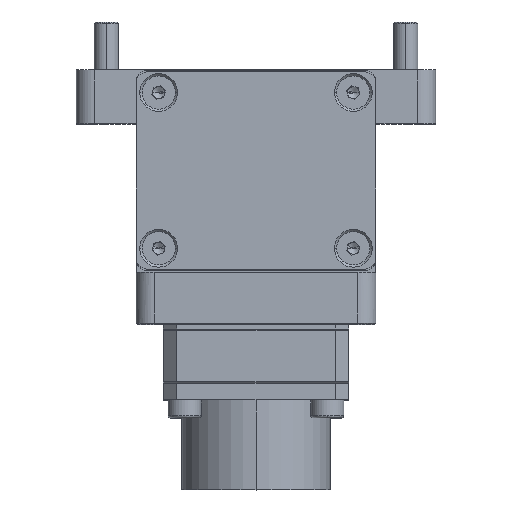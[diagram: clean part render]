
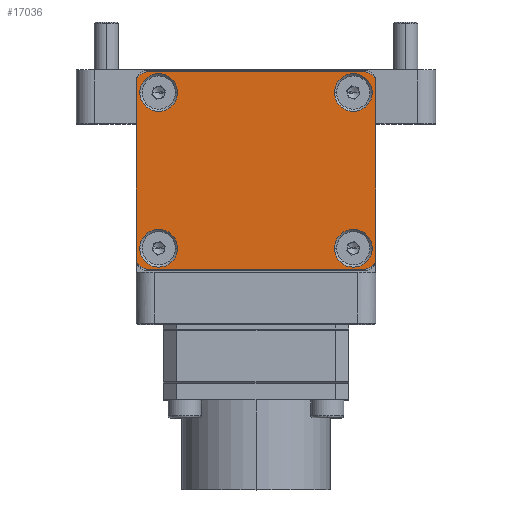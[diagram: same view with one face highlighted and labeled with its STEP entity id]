
A CAD part, top view. The second image highlights one B-rep face of the part: STEP entity #17036.
In plain terms, the highlighted planar face has unit normal (0, 0, 1).
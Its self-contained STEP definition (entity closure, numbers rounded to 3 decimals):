
#133 = CARTESIAN_POINT ( 'NONE',  ( -13.1, -8.55, 36.8 ) ) ;
#352 = EDGE_CURVE ( 'NONE', #18448, #8161, #4329, .T. ) ;
#366 = AXIS2_PLACEMENT_3D ( 'NONE', #6627, #8525, #2038 ) ;
#446 = CARTESIAN_POINT ( 'NONE',  ( -19.4, 17.45, 36.8 ) ) ;
#562 = ORIENTED_EDGE ( 'NONE', *, *, #3652, .F. ) ;
#606 = CARTESIAN_POINT ( 'NONE',  ( 20., -10.05, 36.8 ) ) ;
#627 = CARTESIAN_POINT ( 'NONE',  ( 16.25, -8.55, 36.8 ) ) ;
#720 = EDGE_CURVE ( 'NONE', #4087, #12209, #14804, .T. ) ;
#850 = CARTESIAN_POINT ( 'NONE',  ( 20., 18.95, 36.8 ) ) ;
#1012 = AXIS2_PLACEMENT_3D ( 'NONE', #2974, #4569, #10662 ) ;
#1056 = EDGE_CURVE ( 'NONE', #4096, #13582, #7083, .T. ) ;
#1203 = ORIENTED_EDGE ( 'NONE', *, *, #10445, .F. ) ;
#1251 = CARTESIAN_POINT ( 'NONE',  ( 0., 20.95, 36.8 ) ) ;
#1433 = CARTESIAN_POINT ( 'NONE',  ( 16.25, 17.45, 36.8 ) ) ;
#1600 = CARTESIAN_POINT ( 'NONE',  ( -20., -12.05, 36.8 ) ) ;
#2038 = DIRECTION ( 'NONE',  ( 1., 0., 0. ) ) ;
#2167 = VERTEX_POINT ( 'NONE', #12485 ) ;
#2706 = DIRECTION ( 'NONE',  ( 0., 0., -1. ) ) ;
#2880 = CARTESIAN_POINT ( 'NONE',  ( 0., -12.05, 36.8 ) ) ;
#2948 = DIRECTION ( 'NONE',  ( 0., 0., 1. ) ) ;
#2974 = CARTESIAN_POINT ( 'NONE',  ( 18., 18.95, 36.8 ) ) ;
#3039 = DIRECTION ( 'NONE',  ( 1., 0., 0. ) ) ;
#3059 = CIRCLE ( 'NONE', #12002, 3.15 ) ;
#3254 = AXIS2_PLACEMENT_3D ( 'NONE', #17262, #14158, #6563 ) ;
#3311 = DIRECTION ( 'NONE',  ( 0., 0., -1. ) ) ;
#3317 = ORIENTED_EDGE ( 'NONE', *, *, #9613, .F. ) ;
#3372 = DIRECTION ( 'NONE',  ( 1., 0., 0. ) ) ;
#3433 = VERTEX_POINT ( 'NONE', #14840 ) ;
#3633 = EDGE_LOOP ( 'NONE', ( #8356, #1203 ) ) ;
#3652 = EDGE_CURVE ( 'NONE', #13544, #2167, #14180, .T. ) ;
#3824 = VECTOR ( 'NONE', #17708, 1000. ) ;
#3860 = ORIENTED_EDGE ( 'NONE', *, *, #720, .T. ) ;
#3934 = EDGE_CURVE ( 'NONE', #7366, #18094, #15893, .T. ) ;
#4087 = VERTEX_POINT ( 'NONE', #606 ) ;
#4096 = VERTEX_POINT ( 'NONE', #8298 ) ;
#4276 = DIRECTION ( 'NONE',  ( 0., 0., 1. ) ) ;
#4287 = EDGE_CURVE ( 'NONE', #16637, #15962, #9175, .T. ) ;
#4329 = CIRCLE ( 'NONE', #12637, 3.15 ) ;
#4355 = FACE_BOUND ( 'NONE', #11053, .T. ) ;
#4569 = DIRECTION ( 'NONE',  ( 0., 0., -1. ) ) ;
#4674 = EDGE_CURVE ( 'NONE', #4087, #16637, #13714, .T. ) ;
#4678 = DIRECTION ( 'NONE',  ( 0., 0., 1. ) ) ;
#4751 = CIRCLE ( 'NONE', #13726, 3.15 ) ;
#5244 = CARTESIAN_POINT ( 'NONE',  ( -18., -12.05, 36.8 ) ) ;
#5375 = ORIENTED_EDGE ( 'NONE', *, *, #6306, .F. ) ;
#5902 = DIRECTION ( 'NONE',  ( -1., 0., 0. ) ) ;
#6306 = EDGE_CURVE ( 'NONE', #3433, #12209, #13136, .T. ) ;
#6357 = EDGE_CURVE ( 'NONE', #11614, #18017, #19229, .T. ) ;
#6460 = AXIS2_PLACEMENT_3D ( 'NONE', #17990, #4276, #10375 ) ;
#6563 = DIRECTION ( 'NONE',  ( 1., 0., 0. ) ) ;
#6627 = CARTESIAN_POINT ( 'NONE',  ( 16.25, -8.55, 36.8 ) ) ;
#6635 = AXIS2_PLACEMENT_3D ( 'NONE', #15603, #3311, #16907 ) ;
#7042 = CARTESIAN_POINT ( 'NONE',  ( 19.4, 17.45, 36.8 ) ) ;
#7083 = CIRCLE ( 'NONE', #12504, 3.15 ) ;
#7109 = ORIENTED_EDGE ( 'NONE', *, *, #12693, .F. ) ;
#7155 = FACE_BOUND ( 'NONE', #7342, .T. ) ;
#7264 = CARTESIAN_POINT ( 'NONE',  ( -18., 20.95, 36.8 ) ) ;
#7296 = CARTESIAN_POINT ( 'NONE',  ( -18., -10.05, 36.8 ) ) ;
#7342 = EDGE_LOOP ( 'NONE', ( #562, #3317 ) ) ;
#7345 = ORIENTED_EDGE ( 'NONE', *, *, #1056, .F. ) ;
#7366 = VERTEX_POINT ( 'NONE', #13083 ) ;
#7397 = LINE ( 'NONE', #1600, #17728 ) ;
#7446 = LINE ( 'NONE', #1251, #9900 ) ;
#7463 = FACE_OUTER_BOUND ( 'NONE', #16928, .T. ) ;
#7651 = AXIS2_PLACEMENT_3D ( 'NONE', #9615, #19760, #12142 ) ;
#7705 = EDGE_CURVE ( 'NONE', #13582, #4096, #4751, .T. ) ;
#7779 = DIRECTION ( 'NONE',  ( 1., 0., 0. ) ) ;
#7818 = DIRECTION ( 'NONE',  ( 0., 0., 1. ) ) ;
#8161 = VERTEX_POINT ( 'NONE', #9934 ) ;
#8298 = CARTESIAN_POINT ( 'NONE',  ( -13.1, 17.45, 36.8 ) ) ;
#8356 = ORIENTED_EDGE ( 'NONE', *, *, #352, .F. ) ;
#8525 = DIRECTION ( 'NONE',  ( 0., 0., 1. ) ) ;
#8645 = CARTESIAN_POINT ( 'NONE',  ( -16.25, 17.45, 36.8 ) ) ;
#8654 = PLANE ( 'NONE',  #9276 ) ;
#8721 = ORIENTED_EDGE ( 'NONE', *, *, #7705, .F. ) ;
#8998 = ORIENTED_EDGE ( 'NONE', *, *, #4287, .F. ) ;
#9175 = LINE ( 'NONE', #2880, #12380 ) ;
#9276 = AXIS2_PLACEMENT_3D ( 'NONE', #11848, #13257, #17966 ) ;
#9300 = EDGE_CURVE ( 'NONE', #18094, #3433, #7446, .T. ) ;
#9427 = CARTESIAN_POINT ( 'NONE',  ( 19.4, -8.55, 36.8 ) ) ;
#9464 = EDGE_LOOP ( 'NONE', ( #7345, #8721 ) ) ;
#9613 = EDGE_CURVE ( 'NONE', #2167, #13544, #17601, .T. ) ;
#9615 = CARTESIAN_POINT ( 'NONE',  ( 18., -10.05, 36.8 ) ) ;
#9900 = VECTOR ( 'NONE', #3039, 1000. ) ;
#9934 = CARTESIAN_POINT ( 'NONE',  ( 13.1, 17.45, 36.8 ) ) ;
#10183 = CARTESIAN_POINT ( 'NONE',  ( 20., -12.05, 36.8 ) ) ;
#10375 = DIRECTION ( 'NONE',  ( 1., 0., 0. ) ) ;
#10444 = FACE_BOUND ( 'NONE', #9464, .T. ) ;
#10445 = EDGE_CURVE ( 'NONE', #8161, #18448, #19557, .T. ) ;
#10662 = DIRECTION ( 'NONE',  ( -1., 0., 0. ) ) ;
#11053 = EDGE_LOOP ( 'NONE', ( #15224, #12252 ) ) ;
#11153 = ORIENTED_EDGE ( 'NONE', *, *, #12729, .F. ) ;
#11207 = DIRECTION ( 'NONE',  ( 1., 0., 0. ) ) ;
#11270 = VERTEX_POINT ( 'NONE', #13620 ) ;
#11614 = VERTEX_POINT ( 'NONE', #13592 ) ;
#11740 = ORIENTED_EDGE ( 'NONE', *, *, #9300, .F. ) ;
#11848 = CARTESIAN_POINT ( 'NONE',  ( 0., 4.45, 36.8 ) ) ;
#12002 = AXIS2_PLACEMENT_3D ( 'NONE', #17077, #15571, #3372 ) ;
#12142 = DIRECTION ( 'NONE',  ( 1., 0., 0. ) ) ;
#12209 = VERTEX_POINT ( 'NONE', #850 ) ;
#12252 = ORIENTED_EDGE ( 'NONE', *, *, #6357, .F. ) ;
#12380 = VECTOR ( 'NONE', #13878, 1000. ) ;
#12485 = CARTESIAN_POINT ( 'NONE',  ( 13.1, -8.55, 36.8 ) ) ;
#12504 = AXIS2_PLACEMENT_3D ( 'NONE', #8645, #2948, #17855 ) ;
#12580 = AXIS2_PLACEMENT_3D ( 'NONE', #627, #15831, #11207 ) ;
#12637 = AXIS2_PLACEMENT_3D ( 'NONE', #1433, #7818, #15228 ) ;
#12693 = EDGE_CURVE ( 'NONE', #11270, #7366, #7397, .T. ) ;
#12729 = EDGE_CURVE ( 'NONE', #15962, #11270, #16469, .T. ) ;
#13083 = CARTESIAN_POINT ( 'NONE',  ( -20., 18.95, 36.8 ) ) ;
#13136 = CIRCLE ( 'NONE', #1012, 2. ) ;
#13207 = ORIENTED_EDGE ( 'NONE', *, *, #4674, .F. ) ;
#13257 = DIRECTION ( 'NONE',  ( 0., 0., -1. ) ) ;
#13384 = EDGE_CURVE ( 'NONE', #18017, #11614, #3059, .T. ) ;
#13544 = VERTEX_POINT ( 'NONE', #9427 ) ;
#13582 = VERTEX_POINT ( 'NONE', #446 ) ;
#13592 = CARTESIAN_POINT ( 'NONE',  ( -19.4, -8.55, 36.8 ) ) ;
#13620 = CARTESIAN_POINT ( 'NONE',  ( -20., -10.05, 36.8 ) ) ;
#13714 = CIRCLE ( 'NONE', #7651, 2. ) ;
#13726 = AXIS2_PLACEMENT_3D ( 'NONE', #15780, #4678, #7779 ) ;
#13878 = DIRECTION ( 'NONE',  ( -1., 0., 0. ) ) ;
#14158 = DIRECTION ( 'NONE',  ( 0., 0., 1. ) ) ;
#14180 = CIRCLE ( 'NONE', #12580, 3.15 ) ;
#14804 = LINE ( 'NONE', #10183, #3824 ) ;
#14840 = CARTESIAN_POINT ( 'NONE',  ( 18., 20.95, 36.8 ) ) ;
#14885 = CARTESIAN_POINT ( 'NONE',  ( 18., -12.05, 36.8 ) ) ;
#15202 = DIRECTION ( 'NONE',  ( 0., 1., 0. ) ) ;
#15224 = ORIENTED_EDGE ( 'NONE', *, *, #13384, .F. ) ;
#15228 = DIRECTION ( 'NONE',  ( 1., 0., 0. ) ) ;
#15571 = DIRECTION ( 'NONE',  ( 0., 0., 1. ) ) ;
#15603 = CARTESIAN_POINT ( 'NONE',  ( -18., 18.95, 36.8 ) ) ;
#15780 = CARTESIAN_POINT ( 'NONE',  ( -16.25, 17.45, 36.8 ) ) ;
#15831 = DIRECTION ( 'NONE',  ( 0., 0., 1. ) ) ;
#15893 = CIRCLE ( 'NONE', #6635, 2. ) ;
#15962 = VERTEX_POINT ( 'NONE', #5244 ) ;
#16469 = CIRCLE ( 'NONE', #17427, 2. ) ;
#16637 = VERTEX_POINT ( 'NONE', #14885 ) ;
#16907 = DIRECTION ( 'NONE',  ( 1., 0., 0. ) ) ;
#16928 = EDGE_LOOP ( 'NONE', ( #3860, #5375, #11740, #19326, #7109, #11153, #8998, #13207 ) ) ;
#17036 = ADVANCED_FACE ( 'NONE', ( #7463, #19374, #10444, #4355, #7155 ), #8654, .F. ) ;
#17077 = CARTESIAN_POINT ( 'NONE',  ( -16.25, -8.55, 36.8 ) ) ;
#17262 = CARTESIAN_POINT ( 'NONE',  ( 16.25, 17.45, 36.8 ) ) ;
#17427 = AXIS2_PLACEMENT_3D ( 'NONE', #7296, #2706, #5902 ) ;
#17601 = CIRCLE ( 'NONE', #366, 3.15 ) ;
#17708 = DIRECTION ( 'NONE',  ( 0., 1., 0. ) ) ;
#17728 = VECTOR ( 'NONE', #15202, 1000. ) ;
#17855 = DIRECTION ( 'NONE',  ( 1., 0., 0. ) ) ;
#17966 = DIRECTION ( 'NONE',  ( -1., 0., 0. ) ) ;
#17990 = CARTESIAN_POINT ( 'NONE',  ( -16.25, -8.55, 36.8 ) ) ;
#18017 = VERTEX_POINT ( 'NONE', #133 ) ;
#18094 = VERTEX_POINT ( 'NONE', #7264 ) ;
#18448 = VERTEX_POINT ( 'NONE', #7042 ) ;
#19229 = CIRCLE ( 'NONE', #6460, 3.15 ) ;
#19326 = ORIENTED_EDGE ( 'NONE', *, *, #3934, .F. ) ;
#19374 = FACE_BOUND ( 'NONE', #3633, .T. ) ;
#19557 = CIRCLE ( 'NONE', #3254, 3.15 ) ;
#19760 = DIRECTION ( 'NONE',  ( 0., 0., -1. ) ) ;
